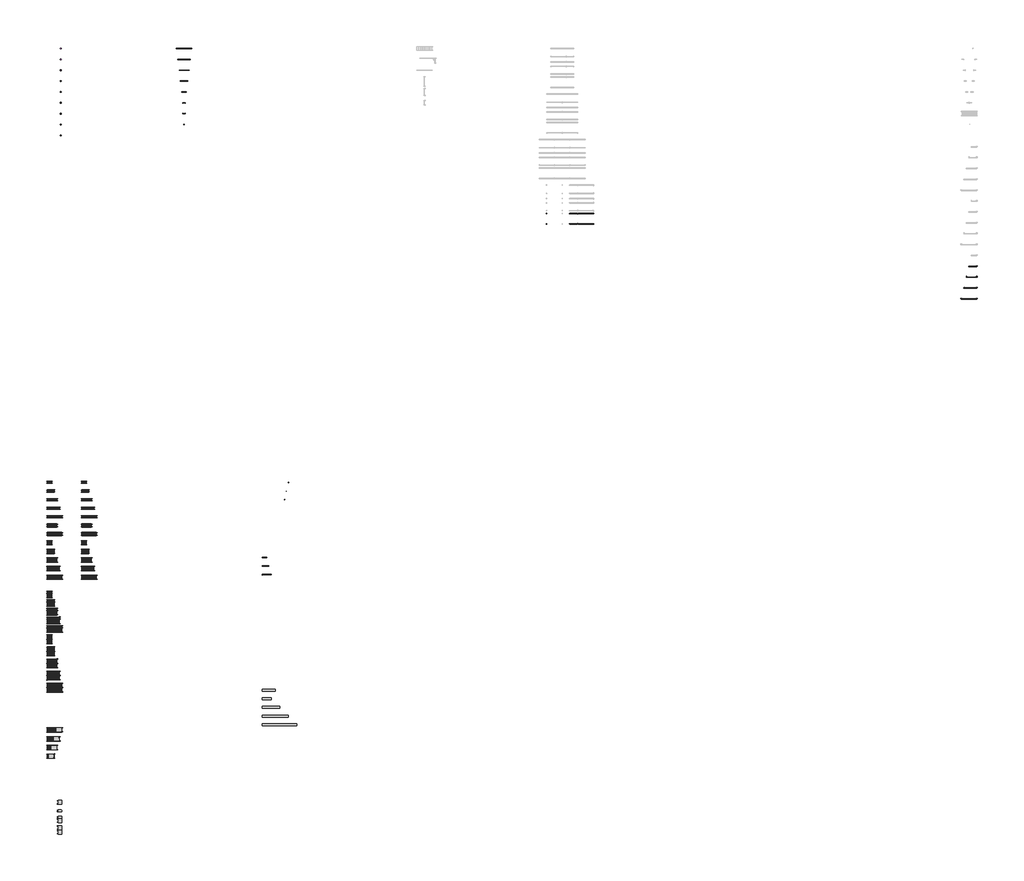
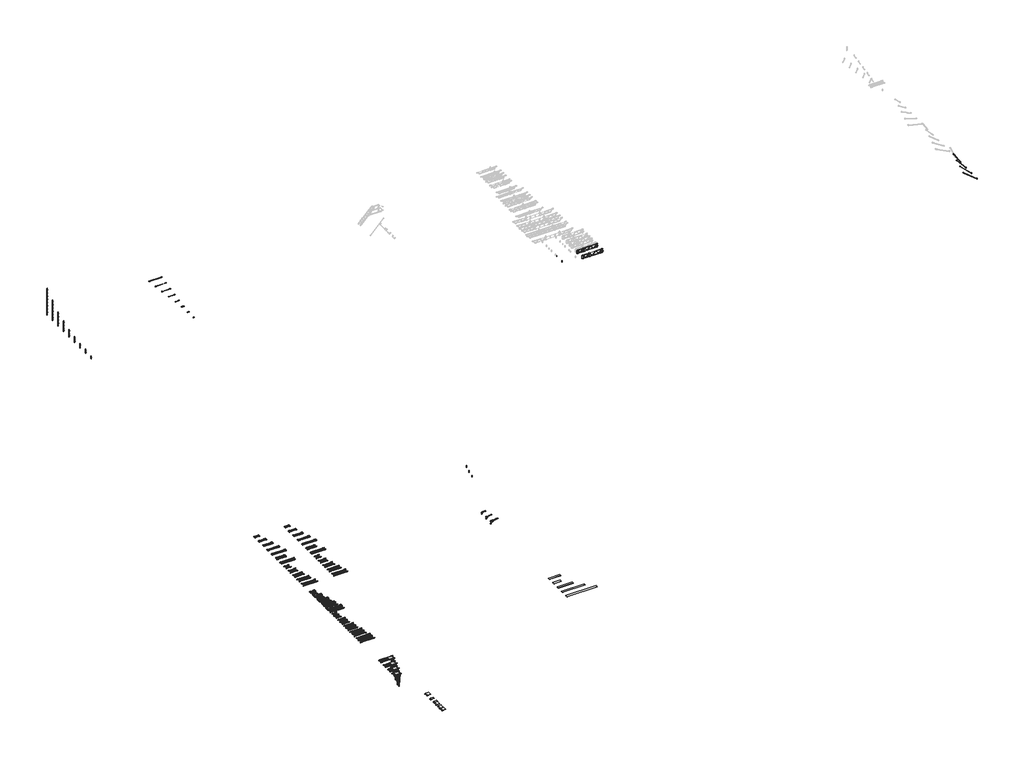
# One storey, part 1 of 2: 97 proxies.
"""IFC4 building model written with IfcOpenShell, lengths in millimetres."""

from ifc_helpers import new_model, si_unit, origin, place, context, project, spatial, transform, mapped, element, save
from components import generic_models_9ae7badf, generic_models_bc8bdfa8, generic_models_b39278bf, generic_models_16b3c78d, generic_models_86f9ce57, generic_models_1dade7e1, generic_models_76ee82b8, generic_models_0a93a7db, generic_models_1e0378dc, generic_models_099d6492, generic_models_34d79544, generic_models_03ab8a06, generic_models_fc53304d, generic_models_4928589d, generic_models_6867d717, generic_models_185ff827, generic_models_e073ca39, generic_models_5db8f6cd, generic_models_267648cc, generic_models_1a670a13, generic_models_91e35777, generic_models_8123577b, generic_models_a14d9769, generic_models_4baf35b3, generic_models_d6438b01, generic_models_5d8191d4, generic_models_ce839660, generic_models_d6b93112, generic_models_1c8c572c, generic_models_a2686e9c, generic_models_e65f739b, generic_models_9cb0f32e, generic_models_ee78bb28, generic_models_ff1ff812, generic_models_8fd451b1, generic_models_806800af, generic_models_df36e8bf, generic_models_287da4fc, generic_models_65f5dfb3, generic_models_88d3360a, generic_models_fa205c5b, generic_models_86c40f9e, generic_models_9ef94eaa, generic_models_952e4b3d, generic_models_f0d058aa, generic_models_0a2738e6, generic_models_8592025f, generic_models_cbe01f0f, generic_models_8c229552, generic_models_9fc35acb, generic_models_31d243a7, generic_models_94c8d769, generic_models_a3916c57, generic_models_d422c3df, generic_models_93407514, generic_models_2c6fe471, generic_models_3d49bad1, generic_models_e605bb73, generic_models_ee462c93

model = new_model("IFC4")

# Units and contexts
model_context = context("Model", 3, world=origin())
ifc_project = project(units=[si_unit("LENGTHUNIT", "METRE", prefix="MILLI")], contexts=[model_context])

# Site, building, storey
site = spatial("IfcSite", under=ifc_project)
building = spatial("IfcBuilding", under=site)
storey = spatial("IfcBuildingStorey", under=building, Name="レベル 1", Elevation=500.0)

# Proxies
placement = place(None, origin())
generic_models_shape = generic_models_9ae7badf(model_context)
element("IfcBuildingElementProxy", 1, Name="AK_アルバトロスＡＫ支柱L=3600_軽 : AK_アルバトロスＡＫ支柱L=3600", ObjectType="AK_アルバトロスＡＫ支柱L=3600_軽 : AK_アルバトロスＡＫ支柱L=3600", at=placement, inside=storey, context=model_context, shape_type="MappedRepresentation", body=[
    mapped(generic_models_shape, transform((6859.9075357, 25132.706542, 500.0), x_axis=(1.0, 0.0, 0.0), y_axis=(0.0, 1.0, 0.0), z_axis=(0.0, 0.0, 1.0))),
])
generic_models_2_shape = generic_models_bc8bdfa8(model_context)
element("IfcBuildingElementProxy", 2, Name="AK_アルバトロスＡＫ連結ピン_軽 : AK_アルバトロスＡＫ連結ピン", ObjectType="AK_アルバトロスＡＫ連結ピン_軽 : AK_アルバトロスＡＫ連結ピン", at=placement, inside=storey, context=model_context, shape_type="MappedRepresentation", body=[
    mapped(generic_models_2_shape, transform((6859.9075357, 25132.706542, 4075.0), x_axis=(1.0, 0.0, 0.0), y_axis=(0.0, 1.0, 0.0), z_axis=(0.0, 0.0, 1.0))),
])
element("IfcBuildingElementProxy", 3, Name="AK_アルバトロスＡＫ連結ピン_軽 : AK_アルバトロスＡＫ連結ピン", ObjectType="AK_アルバトロスＡＫ連結ピン_軽 : AK_アルバトロスＡＫ連結ピン", at=placement, inside=storey, context=model_context, shape_type="MappedRepresentation", body=[
    mapped(generic_models_2_shape, transform((6859.9075357, 23872.706542, 3175.0), x_axis=(1.0, 0.0, 0.0), y_axis=(0.0, 1.0, 0.0), z_axis=(0.0, 0.0, 1.0))),
])
generic_models_3_shape = generic_models_b39278bf(model_context)
element("IfcBuildingElementProxy", 4, Name="AK_アルバトロスＡＫ支柱L=2700_軽 : AK_アルバトロスＡＫ支柱L=2700", ObjectType="AK_アルバトロスＡＫ支柱L=2700_軽 : AK_アルバトロスＡＫ支柱L=2700", at=placement, inside=storey, context=model_context, shape_type="MappedRepresentation", body=[
    mapped(generic_models_3_shape, transform((6859.9075357, 23872.706542, 500.0), x_axis=(1.0, 0.0, 0.0), y_axis=(0.0, 1.0, 0.0), z_axis=(0.0, 0.0, 1.0))),
])
generic_models_4_shape = generic_models_16b3c78d(model_context)
element("IfcBuildingElementProxy", 5, Name="AK_アルバトロスＡＫ支柱L=1800_軽 : AK_アルバトロスＡＫ支柱L=1800", ObjectType="AK_アルバトロスＡＫ支柱L=1800_軽 : AK_アルバトロスＡＫ支柱L=1800", at=placement, inside=storey, context=model_context, shape_type="MappedRepresentation", body=[
    mapped(generic_models_4_shape, transform((6859.9075357, 22612.706542, 500.0), x_axis=(1.0, 0.0, 0.0), y_axis=(0.0, 1.0, 0.0), z_axis=(0.0, 0.0, 1.0))),
])
element("IfcBuildingElementProxy", 6, Name="AK_アルバトロスＡＫ連結ピン_軽 : AK_アルバトロスＡＫ連結ピン", ObjectType="AK_アルバトロスＡＫ連結ピン_軽 : AK_アルバトロスＡＫ連結ピン", at=placement, inside=storey, context=model_context, shape_type="MappedRepresentation", body=[
    mapped(generic_models_2_shape, transform((6859.9075357, 22612.706542, 2275.0), x_axis=(1.0, 0.0, 0.0), y_axis=(0.0, 1.0, 0.0), z_axis=(0.0, 0.0, 1.0))),
])
element("IfcBuildingElementProxy", 7, Name="AK_アルバトロスＡＫ連結ピン_軽 : AK_アルバトロスＡＫ連結ピン", ObjectType="AK_アルバトロスＡＫ連結ピン_軽 : AK_アルバトロスＡＫ連結ピン", at=placement, inside=storey, context=model_context, shape_type="MappedRepresentation", body=[
    mapped(generic_models_2_shape, transform((6859.9075357, 21352.706542, 1825.0), x_axis=(1.0, 0.0, 0.0), y_axis=(0.0, 1.0, 0.0), z_axis=(0.0, 0.0, 1.0))),
])
generic_models_5_shape = generic_models_86f9ce57(model_context)
element("IfcBuildingElementProxy", 8, Name="AK_アルバトロスＡＫ支柱L=1350_軽 : AK_アルバトロスＡＫ支柱L=1350", ObjectType="AK_アルバトロスＡＫ支柱L=1350_軽 : AK_アルバトロスＡＫ支柱L=1350", at=placement, inside=storey, context=model_context, shape_type="MappedRepresentation", body=[
    mapped(generic_models_5_shape, transform((6859.9075357, 21352.706542, 500.0), x_axis=(1.0, 0.0, 0.0), y_axis=(0.0, 1.0, 0.0), z_axis=(0.0, 0.0, 1.0))),
])
generic_models_6_shape = generic_models_1dade7e1(model_context)
element("IfcBuildingElementProxy", 9, Name="AK_アルバトロスＡＫ支柱L=900_軽 : AK_アルバトロスＡＫ支柱L=900", ObjectType="AK_アルバトロスＡＫ支柱L=900_軽 : AK_アルバトロスＡＫ支柱L=900", at=placement, inside=storey, context=model_context, shape_type="MappedRepresentation", body=[
    mapped(generic_models_6_shape, transform((6859.9075357, 20092.706542, 500.0), x_axis=(1.0, 0.0, 0.0), y_axis=(0.0, 1.0, 0.0), z_axis=(0.0, 0.0, 1.0))),
])
element("IfcBuildingElementProxy", 10, Name="AK_アルバトロスＡＫ連結ピン_軽 : AK_アルバトロスＡＫ連結ピン", ObjectType="AK_アルバトロスＡＫ連結ピン_軽 : AK_アルバトロスＡＫ連結ピン", at=placement, inside=storey, context=model_context, shape_type="MappedRepresentation", body=[
    mapped(generic_models_2_shape, transform((6859.9075357, 20092.706542, 1375.0), x_axis=(1.0, 0.0, 0.0), y_axis=(0.0, 1.0, 0.0), z_axis=(0.0, 0.0, 1.0))),
])
element("IfcBuildingElementProxy", 11, Name="AK_アルバトロスＡＫ連結ピン_軽 : AK_アルバトロスＡＫ連結ピン", ObjectType="AK_アルバトロスＡＫ連結ピン_軽 : AK_アルバトロスＡＫ連結ピン", at=placement, inside=storey, context=model_context, shape_type="MappedRepresentation", body=[
    mapped(generic_models_2_shape, transform((6859.9075357, 18832.706542, 1150.0), x_axis=(1.0, 0.0, 0.0), y_axis=(0.0, 1.0, 0.0), z_axis=(0.0, 0.0, 1.0))),
])
generic_models_7_shape = generic_models_76ee82b8(model_context)
element("IfcBuildingElementProxy", 12, Name="AK_アルバトロスＡＫ支柱L=675_軽 : AK_アルバトロスＡＫ支柱L=675", ObjectType="AK_アルバトロスＡＫ支柱L=675_軽 : AK_アルバトロスＡＫ支柱L=675", at=placement, inside=storey, context=model_context, shape_type="MappedRepresentation", body=[
    mapped(generic_models_7_shape, transform((6859.9075357, 18832.706542, 500.0), x_axis=(1.0, 0.0, 0.0), y_axis=(0.0, 1.0, 0.0), z_axis=(0.0, 0.0, 1.0))),
])
generic_models_8_shape = generic_models_0a93a7db(model_context)
element("IfcBuildingElementProxy", 13, Name="AK_アルバトロスＡＫ支柱L=450_軽 : AK_アルバトロスＡＫ支柱L=450", ObjectType="AK_アルバトロスＡＫ支柱L=450_軽 : AK_アルバトロスＡＫ支柱L=450", at=placement, inside=storey, context=model_context, shape_type="MappedRepresentation", body=[
    mapped(generic_models_8_shape, transform((6859.9075357, 17572.706542, 500.0), x_axis=(1.0, 0.0, 0.0), y_axis=(0.0, 1.0, 0.0), z_axis=(0.0, 0.0, 1.0))),
])
generic_models_9_shape = generic_models_1e0378dc(model_context)
element("IfcBuildingElementProxy", 14, Name="AK_アルバトロスＡＫ連結ピン_軽 : AK_アルバトロスＡＫ連結ピン", ObjectType="AK_アルバトロスＡＫ連結ピン_軽 : AK_アルバトロスＡＫ連結ピン", at=placement, inside=storey, context=model_context, shape_type="MappedRepresentation", body=[
    mapped(generic_models_9_shape, transform((6859.9075357, 17572.706542, 925.0), x_axis=(1.0, 0.0, 0.0), y_axis=(0.0, 1.0, 0.0), z_axis=(0.0, 0.0, 1.0))),
])
generic_models_10_shape = generic_models_099d6492(model_context)
element("IfcBuildingElementProxy", 15, Name="AK_アルバトロスＡＫ布材L=1800_軽 : AK_アルバトロスＡＫ布材L=1800_軽", ObjectType="AK_アルバトロスＡＫ布材L=1800_軽 : AK_アルバトロスＡＫ布材L=1800_軽", at=placement, inside=storey, context=model_context, shape_type="MappedRepresentation", body=[
    mapped(generic_models_10_shape, transform((20254.9075357, 25132.706542, 500.0), x_axis=(1.0, 0.0, 0.0), y_axis=(0.0, 1.0, 0.0), z_axis=(0.0, 0.0, 1.0))),
])
generic_models_11_shape = generic_models_34d79544(model_context)
element("IfcBuildingElementProxy", 16, Name="AK_アルバトロスＡＫ布材L=1500_軽 : AK_アルバトロスＡＫ布材L=1500_軽", ObjectType="AK_アルバトロスＡＫ布材L=1500_軽 : AK_アルバトロスＡＫ布材L=1500_軽", at=placement, inside=storey, context=model_context, shape_type="MappedRepresentation", body=[
    mapped(generic_models_11_shape, transform((20404.9075383, 23872.706542, 500.0), x_axis=(1.0, 0.0, 0.0), y_axis=(0.0, 1.0, 0.0), z_axis=(0.0, 0.0, 1.0))),
])
generic_models_12_shape = generic_models_03ab8a06(model_context)
element("IfcBuildingElementProxy", 17, Name="AK_アルバトロスＡＫ布材L=1200_軽 : AK_アルバトロスＡＫ布材L=1200_軽", ObjectType="AK_アルバトロスＡＫ布材L=1200_軽 : AK_アルバトロスＡＫ布材L=1200_軽", at=placement, inside=storey, context=model_context, shape_type="MappedRepresentation", body=[
    mapped(generic_models_12_shape, transform((20554.9075159, 22612.706542, 500.0), x_axis=(1.0, 0.0, 0.0), y_axis=(0.0, 1.0, 0.0), z_axis=(0.0, 0.0, 1.0))),
])
generic_models_13_shape = generic_models_fc53304d(model_context)
element("IfcBuildingElementProxy", 18, Name="AK_アルバトロスＡＫ布材L=900_軽 : AK_アルバトロスＡＫ布材L=900_軽", ObjectType="AK_アルバトロスＡＫ布材L=900_軽 : AK_アルバトロスＡＫ布材L=900_軽", at=placement, inside=storey, context=model_context, shape_type="MappedRepresentation", body=[
    mapped(generic_models_13_shape, transform((20704.9075357, 21352.706542, 500.0), x_axis=(1.0, 0.0, 0.0), y_axis=(0.0, 1.0, 0.0), z_axis=(0.0, 0.0, 1.0))),
])
generic_models_14_shape = generic_models_4928589d(model_context)
element("IfcBuildingElementProxy", 19, Name="AK_アルバトロスＡＫ布材L=600_軽 : AK_アルバトロスＡＫ布材L=600_軽", ObjectType="AK_アルバトロスＡＫ布材L=600_軽 : AK_アルバトロスＡＫ布材L=600_軽", at=placement, inside=storey, context=model_context, shape_type="MappedRepresentation", body=[
    mapped(generic_models_14_shape, transform((20854.9075159, 20092.706542, 500.0), x_axis=(1.0, 0.0, 0.0), y_axis=(0.0, 1.0, 0.0), z_axis=(0.0, 0.0, 1.0))),
])
generic_models_15_shape = generic_models_6867d717(model_context)
element("IfcBuildingElementProxy", 20, Name="AK_アルバトロスＡＫ布材L=360_軽 : AK_アルバトロスＡＫ布材L=360_軽", ObjectType="AK_アルバトロスＡＫ布材L=360_軽 : AK_アルバトロスＡＫ布材L=360_軽", at=placement, inside=storey, context=model_context, shape_type="MappedRepresentation", body=[
    mapped(generic_models_15_shape, transform((20974.9075357, 18832.706542, 500.0), x_axis=(1.0, 0.0, 0.0), y_axis=(0.0, 1.0, 0.0), z_axis=(0.0, 0.0, 1.0))),
])
generic_models_16_shape = generic_models_185ff827(model_context)
element("IfcBuildingElementProxy", 21, Name="AK_アルバトロスＡＫ布材L=300_軽 : AK_アルバトロスＡＫ布材L=300_軽", ObjectType="AK_アルバトロスＡＫ布材L=300_軽 : AK_アルバトロスＡＫ布材L=300_軽", at=placement, inside=storey, context=model_context, shape_type="MappedRepresentation", body=[
    mapped(generic_models_16_shape, transform((21004.9075107, 17572.706542, 500.0), x_axis=(1.0, 0.0, 0.0), y_axis=(0.0, 1.0, 0.0), z_axis=(0.0, 0.0, 1.0))),
])
generic_models_17_shape = generic_models_e073ca39(model_context)
element("IfcBuildingElementProxy", 22, Name="AK_アルバトロスＡＫつなぎ材_軽 : AK_アルバトロスＡＫつなぎ材_軽", ObjectType="AK_アルバトロスＡＫつなぎ材_軽 : AK_アルバトロスＡＫつなぎ材_軽", at=placement, inside=storey, context=model_context, shape_type="MappedRepresentation", body=[
    mapped(generic_models_17_shape, transform((21073.4075306, 16312.706542, 500.0), x_axis=(1.0, 0.0, 0.0), y_axis=(0.0, 1.0, 0.0), z_axis=(0.0, 0.0, 1.0))),
])
generic_models_18_shape = generic_models_5db8f6cd(model_context)
element("IfcBuildingElementProxy", 23, Name="AK_アルバトロスＡＫ根がらみ支柱L=225_軽 : AK_アルバトロスＡＫ根がらみ支柱L=225_軽", ObjectType="AK_アルバトロスＡＫ根がらみ支柱L=225_軽 : AK_アルバトロスＡＫ根がらみ支柱L=225_軽", at=placement, inside=storey, context=model_context, shape_type="MappedRepresentation", body=[
    mapped(generic_models_18_shape, transform((6859.9075357, 15052.706542, 500.0), x_axis=(1.0, 0.0, 0.0), y_axis=(0.0, 1.0, 0.0), z_axis=(0.0, 0.0, 1.0))),
])
generic_models_19_shape = generic_models_267648cc(model_context)
element("IfcBuildingElementProxy", 24, Name="AK_アルバトロスＡＫ根がらみ支柱L=450（大和式ピン）_軽 : AK_アルバトロスＡＫ根がらみ支柱L=450（大和式ピン）_軽", ObjectType="AK_アルバトロスＡＫ根がらみ支柱L=450（大和式ピン）_軽 : AK_アルバトロスＡＫ根がらみ支柱L=450（大和式ピン）_軽", at=placement, inside=storey, context=model_context, shape_type="MappedRepresentation", body=[
    mapped(generic_models_19_shape, transform((6859.9075357, 16312.706542, 500.0), x_axis=(1.0, 0.0, 0.0), y_axis=(0.0, 1.0, 0.0), z_axis=(0.0, 0.0, 1.0))),
])
generic_models_20_shape = generic_models_1a670a13(model_context)
element("IfcBuildingElementProxy", 25, Name="アルバトロスAK4スパン梁枠短ピン付_軽 : アルバトロスAK4スパン梁枠短ピン付_軽", ObjectType="アルバトロスAK4スパン梁枠短ピン付_軽 : アルバトロスAK4スパン梁枠短ピン付_軽", at=placement, inside=storey, context=model_context, shape_type="MappedRepresentation", body=[
    mapped(generic_models_20_shape, transform((61328.3356425, 4792.706542, 500.0), x_axis=(1.0, 0.0, 0.0), y_axis=(0.0, 1.0, 0.0), z_axis=(0.0, 0.0, 1.0))),
])
generic_models_21_shape = generic_models_91e35777(model_context)
element("IfcBuildingElementProxy", 26, Name="AK_アルバトロスAK伸縮斜材 : H1800×L1200", ObjectType="AK_アルバトロスAK伸縮斜材 : H1800×L1200", at=placement, inside=storey, context=model_context, shape_type="MappedRepresentation", body=[
    mapped(generic_models_21_shape, transform((113074.6155155, -1397.293458, 0.0), x_axis=(1.0, 0.0, 0.0), y_axis=(0.0, 1.0, 0.0), z_axis=(0.0, 0.0, 1.0))),
])
generic_models_22_shape = generic_models_8123577b(model_context)
element("IfcBuildingElementProxy", 27, Name="AK_アルバトロスAK伸縮斜材 : H1800×L1500", ObjectType="AK_アルバトロスAK伸縮斜材 : H1800×L1500", at=placement, inside=storey, context=model_context, shape_type="MappedRepresentation", body=[
    mapped(generic_models_22_shape, transform((113074.6155155, -2657.293458, 0.0), x_axis=(1.0, 0.0, 0.0), y_axis=(0.0, 1.0, 0.0), z_axis=(0.0, 0.0, 1.0))),
])
generic_models_23_shape = generic_models_a14d9769(model_context)
element("IfcBuildingElementProxy", 28, Name="AK_アルバトロスAK伸縮斜材 : H1800×L1800", ObjectType="AK_アルバトロスAK伸縮斜材 : H1800×L1800", at=placement, inside=storey, context=model_context, shape_type="MappedRepresentation", body=[
    mapped(generic_models_23_shape, transform((113074.6155155, -3917.293458, 0.0), x_axis=(1.0, 0.0, 0.0), y_axis=(0.0, 1.0, 0.0), z_axis=(0.0, 0.0, 1.0))),
])
generic_models_24_shape = generic_models_4baf35b3(model_context)
element("IfcBuildingElementProxy", 29, Name="AK_アルバトロスAK伸縮斜材 : H1800×L0900", ObjectType="AK_アルバトロスAK伸縮斜材 : H1800×L0900", at=placement, inside=storey, context=model_context, shape_type="MappedRepresentation", body=[
    mapped(generic_models_24_shape, transform((113074.6155155, -137.293458, 0.0), x_axis=(1.0, 0.0, 0.0), y_axis=(0.0, 1.0, 0.0), z_axis=(0.0, 0.0, 1.0))),
])
generic_models_25_shape = generic_models_d6438b01(model_context)
element("IfcBuildingElementProxy", 30, Name="梁枠部品ピン_軽 : 梁枠部品ピン_軽", ObjectType="梁枠部品ピン_軽 : 梁枠部品ピン_軽", at=placement, inside=storey, context=model_context, shape_type="MappedRepresentation", body=[
    mapped(generic_models_25_shape, transform((63205.3356425, 5992.706542, 500.0), x_axis=(1.0, 0.0, 0.0), y_axis=(0.0, 1.0, 0.0), z_axis=(0.0, 0.0, 1.0))),
])
generic_models_26_shape = generic_models_5d8191d4(model_context)
element("IfcBuildingElementProxy", 31, Name="アルバトロスAK4スパン梁枠短ピン付_軽 : アルバトロスAK4スパン梁枠短ピン付_軽", ObjectType="アルバトロスAK4スパン梁枠短ピン付_軽 : アルバトロスAK4スパン梁枠短ピン付_軽", at=placement, inside=storey, context=model_context, shape_type="MappedRepresentation", body=[
    mapped(generic_models_26_shape, transform((61328.3356425, 5992.706542, 500.0), x_axis=(1.0, 0.0, 0.0), y_axis=(0.0, 1.0, 0.0), z_axis=(0.0, 0.0, 1.0))),
])
generic_models_27_shape = generic_models_ce839660(model_context)
element("IfcBuildingElementProxy", 32, Name="梁枠部品ピン_軽 : 梁枠部品ピン_軽", ObjectType="梁枠部品ピン_軽 : 梁枠部品ピン_軽", at=placement, inside=storey, context=model_context, shape_type="MappedRepresentation", body=[
    mapped(generic_models_27_shape, transform((63205.3356425, 4792.706542, 500.0), x_axis=(1.0, 0.0, 0.0), y_axis=(0.0, 1.0, 0.0), z_axis=(0.0, 0.0, 1.0))),
])
generic_models_28_shape = generic_models_d6b93112(model_context)
element("IfcBuildingElementProxy", 33, Name="AKK布板HF-206_軽 : 鋼製布板 HF-206_軽", ObjectType="AKK布板HF-206_軽 : 鋼製布板 HF-206_軽", at=placement, inside=storey, context=model_context, shape_type="MappedRepresentation", body=[
    mapped(generic_models_28_shape, transform((5244.9191609, -25304.0203924, 500.0), x_axis=(1.0, 0.0, 0.0), y_axis=(0.0, 1.0, 0.0), z_axis=(0.0, 0.0, 1.0))),
])
generic_models_29_shape = generic_models_1c8c572c(model_context)
element("IfcBuildingElementProxy", 34, Name="AKK布板HF-209_軽 : 鋼製布板 HF-209_軽", ObjectType="AKK布板HF-209_軽 : 鋼製布板 HF-209_軽", at=placement, inside=storey, context=model_context, shape_type="MappedRepresentation", body=[
    mapped(generic_models_29_shape, transform((5242.9191609, -26304.0203924, 500.0), x_axis=(1.0, 0.0, 0.0), y_axis=(0.0, 1.0, 0.0), z_axis=(0.0, 0.0, 1.0))),
])
generic_models_30_shape = generic_models_a2686e9c(model_context)
element("IfcBuildingElementProxy", 35, Name="AKK布板HF-212_軽 : 鋼製布板 HF-212_軽", ObjectType="AKK布板HF-212_軽 : 鋼製布板 HF-212_軽", at=placement, inside=storey, context=model_context, shape_type="MappedRepresentation", body=[
    mapped(generic_models_30_shape, transform((5240.4191609, -27304.0203924, 500.0), x_axis=(1.0, 0.0, 0.0), y_axis=(0.0, 1.0, 0.0), z_axis=(0.0, 0.0, 1.0))),
])
generic_models_31_shape = generic_models_e65f739b(model_context)
element("IfcBuildingElementProxy", 36, Name="AKK布板HF-215_軽 : 鋼製布板 HF-215_軽", ObjectType="AKK布板HF-215_軽 : 鋼製布板 HF-215_軽", at=placement, inside=storey, context=model_context, shape_type="MappedRepresentation", body=[
    mapped(generic_models_31_shape, transform((5237.9191609, -28304.0203924, 500.0), x_axis=(1.0, 0.0, 0.0), y_axis=(0.0, 1.0, 0.0), z_axis=(0.0, 0.0, 1.0))),
])
generic_models_32_shape = generic_models_9cb0f32e(model_context)
element("IfcBuildingElementProxy", 37, Name="AKK布板HF-218_軽 : 鋼製布板 HF-218_軽", ObjectType="AKK布板HF-218_軽 : 鋼製布板 HF-218_軽", at=placement, inside=storey, context=model_context, shape_type="MappedRepresentation", body=[
    mapped(generic_models_32_shape, transform((5235.4191609, -29304.0203924, 500.0), x_axis=(1.0, 0.0, 0.0), y_axis=(0.0, 1.0, 0.0), z_axis=(0.0, 0.0, 1.0))),
])
generic_models_33_shape = generic_models_ee78bb28(model_context)
element("IfcBuildingElementProxy", 38, Name="AKK布板HF-506_軽 : 鋼製布板 HF-506_軽", ObjectType="AKK布板HF-506_軽 : 鋼製布板 HF-506_軽", at=placement, inside=storey, context=model_context, shape_type="MappedRepresentation", body=[
    mapped(generic_models_33_shape, transform((5244.9191609, -32434.0741836, 500.0), x_axis=(1.0, 0.0, 0.0), y_axis=(0.0, 1.0, 0.0), z_axis=(0.0, 0.0, 1.0))),
])
generic_models_34_shape = generic_models_ff1ff812(model_context)
element("IfcBuildingElementProxy", 39, Name="AKK布板HF-509_軽 : 鋼製布板 HF-509_軽", ObjectType="AKK布板HF-509_軽 : 鋼製布板 HF-509_軽", at=placement, inside=storey, context=model_context, shape_type="MappedRepresentation", body=[
    mapped(generic_models_34_shape, transform((5242.9191609, -33434.0741836, 500.0), x_axis=(1.0, 0.0, 0.0), y_axis=(0.0, 1.0, 0.0), z_axis=(0.0, 0.0, 1.0))),
])
generic_models_35_shape = generic_models_8fd451b1(model_context)
element("IfcBuildingElementProxy", 40, Name="AKK布板HF-512_軽 : 鋼製布板 HF-512_軽", ObjectType="AKK布板HF-512_軽 : 鋼製布板 HF-512_軽", at=placement, inside=storey, context=model_context, shape_type="MappedRepresentation", body=[
    mapped(generic_models_35_shape, transform((5240.4191609, -34434.0741836, 500.0), x_axis=(1.0, 0.0, 0.0), y_axis=(0.0, 1.0, 0.0), z_axis=(0.0, 0.0, 1.0))),
])
generic_models_36_shape = generic_models_806800af(model_context)
element("IfcBuildingElementProxy", 41, Name="AKK布板HF-515_軽 : 鋼製布板 HF-515_軽", ObjectType="AKK布板HF-515_軽 : 鋼製布板 HF-515_軽", at=placement, inside=storey, context=model_context, shape_type="MappedRepresentation", body=[
    mapped(generic_models_36_shape, transform((5237.9191609, -35434.0741836, 500.0), x_axis=(1.0, 0.0, 0.0), y_axis=(0.0, 1.0, 0.0), z_axis=(0.0, 0.0, 1.0))),
])
generic_models_37_shape = generic_models_df36e8bf(model_context)
element("IfcBuildingElementProxy", 42, Name="AKK布板HF-518_軽 : 鋼製布板 HF-518_軽", ObjectType="AKK布板HF-518_軽 : 鋼製布板 HF-518_軽", at=placement, inside=storey, context=model_context, shape_type="MappedRepresentation", body=[
    mapped(generic_models_37_shape, transform((5235.4191609, -36434.0741836, 500.0), x_axis=(1.0, 0.0, 0.0), y_axis=(0.0, 1.0, 0.0), z_axis=(0.0, 0.0, 1.0))),
])
generic_models_38_shape = generic_models_287da4fc(model_context)
element("IfcBuildingElementProxy", 43, Name="AK_補助布板HF-505_軽 : AK_補助布板HF-505_軽", ObjectType="AK_補助布板HF-505_軽 : AK_補助布板HF-505_軽", at=placement, inside=storey, context=model_context, shape_type="MappedRepresentation", body=[
    mapped(generic_models_38_shape, transform((6605.4075357, -62526.7557639, 500.0), x_axis=(1.0, 0.0, 0.0), y_axis=(0.0, 1.0, 0.0), z_axis=(0.0, 0.0, 1.0))),
])
element("IfcBuildingElementProxy", 44, Name="AK_補助布板HF-505_軽 : AK_補助布板HF-505_軽", ObjectType="AK_補助布板HF-505_軽 : AK_補助布板HF-505_軽", at=placement, inside=storey, context=model_context, shape_type="MappedRepresentation", body=[
    mapped(generic_models_38_shape, transform((6605.4075357, -64661.7557639, 500.0), x_axis=(1.0, 0.0, 0.0), y_axis=(0.0, 1.0, 0.0), z_axis=(0.0, 0.0, 1.0))),
])
generic_models_39_shape = generic_models_65f5dfb3(model_context)
element("IfcBuildingElementProxy", 45, Name="AK_補助布板HF-205_軽 : AK_補助布板HF-205_軽", ObjectType="AK_補助布板HF-205_軽 : AK_補助布板HF-205_軽", at=placement, inside=storey, context=model_context, shape_type="MappedRepresentation", body=[
    mapped(generic_models_39_shape, transform((6605.4075357, -63396.7557639, 500.0), x_axis=(1.0, 0.0, 0.0), y_axis=(0.0, 1.0, 0.0), z_axis=(0.0, 0.0, 1.0))),
])
element("IfcBuildingElementProxy", 46, Name="AK_補助布板HF-205_軽 : AK_補助布板HF-205_軽", ObjectType="AK_補助布板HF-205_軽 : AK_補助布板HF-205_軽", at=placement, inside=storey, context=model_context, shape_type="MappedRepresentation", body=[
    mapped(generic_models_39_shape, transform((6605.4075357, -64131.7557639, 500.0), x_axis=(1.0, 0.0, 0.0), y_axis=(0.0, 1.0, 0.0), z_axis=(0.0, 0.0, 1.0))),
])
generic_models_40_shape = generic_models_88d3360a(model_context)
element("IfcBuildingElementProxy", 47, Name="AKK布板HF-518_斜線なし_軽 : 鋼製布板 HF-518", ObjectType="AKK布板HF-518_斜線なし_軽 : 鋼製布板 HF-518", at=placement, inside=storey, context=model_context, shape_type="MappedRepresentation", body=[
    mapped(generic_models_40_shape, transform((9235.2275373, -36434.0741836, 500.0), x_axis=(1.0, 0.0, 0.0), y_axis=(0.0, 1.0, 0.0), z_axis=(0.0, 0.0, 1.0))),
])
element("IfcBuildingElementProxy", 48, Name="AKK布板HF-206_斜線なし_軽 : 鋼製布板 HF-206", ObjectType="AKK布板HF-206_斜線なし_軽 : 鋼製布板 HF-206", at=placement, inside=storey, context=model_context, shape_type="MappedRepresentation", body=[
    mapped(generic_models_28_shape, transform((9244.7275373, -25304.0203924, 500.0), x_axis=(1.0, 0.0, 0.0), y_axis=(0.0, 1.0, 0.0), z_axis=(0.0, 0.0, 1.0))),
])
element("IfcBuildingElementProxy", 49, Name="AKK布板HF-209_斜線なし_軽 : 鋼製布板 HF-209", ObjectType="AKK布板HF-209_斜線なし_軽 : 鋼製布板 HF-209", at=placement, inside=storey, context=model_context, shape_type="MappedRepresentation", body=[
    mapped(generic_models_29_shape, transform((9242.7275373, -26304.0203924, 500.0), x_axis=(1.0, 0.0, 0.0), y_axis=(0.0, 1.0, 0.0), z_axis=(0.0, 0.0, 1.0))),
])
generic_models_41_shape = generic_models_fa205c5b(model_context)
element("IfcBuildingElementProxy", 50, Name="AKK布板HF-212_斜線なし_軽 : 鋼製布板 HF-212", ObjectType="AKK布板HF-212_斜線なし_軽 : 鋼製布板 HF-212", at=placement, inside=storey, context=model_context, shape_type="MappedRepresentation", body=[
    mapped(generic_models_41_shape, transform((9240.2275373, -27304.0203924, 500.0), x_axis=(1.0, 0.0, 0.0), y_axis=(0.0, 1.0, 0.0), z_axis=(0.0, 0.0, 1.0))),
])
element("IfcBuildingElementProxy", 51, Name="AKK布板HF-215_斜線なし_軽 : 鋼製布板 HF-215", ObjectType="AKK布板HF-215_斜線なし_軽 : 鋼製布板 HF-215", at=placement, inside=storey, context=model_context, shape_type="MappedRepresentation", body=[
    mapped(generic_models_31_shape, transform((9237.7275373, -28304.0203924, 500.0), x_axis=(1.0, 0.0, 0.0), y_axis=(0.0, 1.0, 0.0), z_axis=(0.0, 0.0, 1.0))),
])
element("IfcBuildingElementProxy", 52, Name="AKK布板HF-218_斜線なし_軽 : 鋼製布板 HF-218", ObjectType="AKK布板HF-218_斜線なし_軽 : 鋼製布板 HF-218", at=placement, inside=storey, context=model_context, shape_type="MappedRepresentation", body=[
    mapped(generic_models_32_shape, transform((9235.2275373, -29304.0203924, 500.0), x_axis=(1.0, 0.0, 0.0), y_axis=(0.0, 1.0, 0.0), z_axis=(0.0, 0.0, 1.0))),
])
generic_models_42_shape = generic_models_86c40f9e(model_context)
element("IfcBuildingElementProxy", 53, Name="AKK布板HF-412_軽 : 鋼製布板 HF-412_軽", ObjectType="AKK布板HF-412_軽 : 鋼製布板 HF-412_軽", at=placement, inside=storey, context=model_context, shape_type="MappedRepresentation", body=[
    mapped(generic_models_42_shape, transform((5240.4191609, -30384.0203924, 500.0), x_axis=(1.0, 0.0, 0.0), y_axis=(0.0, 1.0, 0.0), z_axis=(0.0, 0.0, 1.0))),
])
generic_models_43_shape = generic_models_9ef94eaa(model_context)
element("IfcBuildingElementProxy", 54, Name="AKK布板HF-412_斜線なし_軽 : 鋼製布板 HF-412", ObjectType="AKK布板HF-412_斜線なし_軽 : 鋼製布板 HF-412", at=placement, inside=storey, context=model_context, shape_type="MappedRepresentation", body=[
    mapped(generic_models_43_shape, transform((9240.2275373, -30384.0741836, 500.0), x_axis=(1.0, 0.0, 0.0), y_axis=(0.0, 1.0, 0.0), z_axis=(0.0, 0.0, 1.0))),
])
generic_models_44_shape = generic_models_952e4b3d(model_context)
element("IfcBuildingElementProxy", 55, Name="AKK布板HF-418_斜線なし_軽 : 鋼製布板 HF-418", ObjectType="AKK布板HF-418_斜線なし_軽 : 鋼製布板 HF-418", at=placement, inside=storey, context=model_context, shape_type="MappedRepresentation", body=[
    mapped(generic_models_44_shape, transform((9235.2275373, -31384.0741836, 500.0), x_axis=(1.0, 0.0, 0.0), y_axis=(0.0, 1.0, 0.0), z_axis=(0.0, 0.0, 1.0))),
])
generic_models_45_shape = generic_models_f0d058aa(model_context)
element("IfcBuildingElementProxy", 56, Name="AKK布板HF-506_斜線なし_軽 : 鋼製布板 HF-506", ObjectType="AKK布板HF-506_斜線なし_軽 : 鋼製布板 HF-506", at=placement, inside=storey, context=model_context, shape_type="MappedRepresentation", body=[
    mapped(generic_models_45_shape, transform((9244.7275373, -32434.0741836, 500.0), x_axis=(1.0, 0.0, 0.0), y_axis=(0.0, 1.0, 0.0), z_axis=(0.0, 0.0, 1.0))),
])
element("IfcBuildingElementProxy", 57, Name="AKK布板HF-509_斜線なし_軽 : 鋼製布板 HF-509", ObjectType="AKK布板HF-509_斜線なし_軽 : 鋼製布板 HF-509", at=placement, inside=storey, context=model_context, shape_type="MappedRepresentation", body=[
    mapped(generic_models_34_shape, transform((9242.7275373, -33434.0741836, 500.0), x_axis=(1.0, 0.0, 0.0), y_axis=(0.0, 1.0, 0.0), z_axis=(0.0, 0.0, 1.0))),
])
element("IfcBuildingElementProxy", 58, Name="AKK布板HF-512_斜線なし_軽 : 鋼製布板 HF-512", ObjectType="AKK布板HF-512_斜線なし_軽 : 鋼製布板 HF-512", at=placement, inside=storey, context=model_context, shape_type="MappedRepresentation", body=[
    mapped(generic_models_35_shape, transform((9240.2275373, -34434.0741836, 500.0), x_axis=(1.0, 0.0, 0.0), y_axis=(0.0, 1.0, 0.0), z_axis=(0.0, 0.0, 1.0))),
])
element("IfcBuildingElementProxy", 59, Name="AKK布板HF-515_斜線なし_軽 : 鋼製布板 HF-515", ObjectType="AKK布板HF-515_斜線なし_軽 : 鋼製布板 HF-515", at=placement, inside=storey, context=model_context, shape_type="MappedRepresentation", body=[
    mapped(generic_models_36_shape, transform((9237.7275373, -35434.0741836, 500.0), x_axis=(1.0, 0.0, 0.0), y_axis=(0.0, 1.0, 0.0), z_axis=(0.0, 0.0, 1.0))),
])
element("IfcBuildingElementProxy", 60, Name="AKK布板HF-418_軽 : 鋼製布板 HF-418_軽", ObjectType="AKK布板HF-418_軽 : 鋼製布板 HF-418_軽", at=placement, inside=storey, context=model_context, shape_type="MappedRepresentation", body=[
    mapped(generic_models_44_shape, transform((5235.4191609, -31384.0203924, 500.0), x_axis=(1.0, 0.0, 0.0), y_axis=(0.0, 1.0, 0.0), z_axis=(0.0, 0.0, 1.0))),
])
generic_models_46_shape = generic_models_0a2738e6(model_context)
element("IfcBuildingElementProxy", 61, Name="AK_アルミハッチ式布板NHYA-509(タラップ式)_軽 : AK_アルミハッチ式布板NHYA-509(タラップ式)_軽", ObjectType="AK_アルミハッチ式布板NHYA-509(タラップ式)_軽 : AK_アルミハッチ式布板NHYA-509(タラップ式)_軽", at=placement, inside=storey, context=model_context, shape_type="MappedRepresentation", body=[
    mapped(generic_models_46_shape, transform((4334.9075357, -57184.0741836, 500.0), x_axis=(1.0, 0.0, 0.0), y_axis=(0.0, 1.0, 0.0), z_axis=(0.0, 0.0, 1.0))),
])
generic_models_47_shape = generic_models_8592025f(model_context)
element("IfcBuildingElementProxy", 62, Name="AK_アルミハッチ式布板HF-512HT(タラップ式)_軽 : AK_アルミハッチ式布板HF-512HT(タラップ式)_軽", ObjectType="AK_アルミハッチ式布板HF-512HT(タラップ式)_軽 : AK_アルミハッチ式布板HF-512HT(タラップ式)_軽", at=placement, inside=storey, context=model_context, shape_type="MappedRepresentation", body=[
    mapped(generic_models_47_shape, transform((4639.9075357, -56184.0741836, 500.0), x_axis=(1.0, 0.0, 0.0), y_axis=(0.0, 1.0, 0.0), z_axis=(0.0, 0.0, 1.0))),
])
generic_models_48_shape = generic_models_cbe01f0f(model_context)
element("IfcBuildingElementProxy", 63, Name="AK_アルミハッチ式布板HF-515HT(タラップ式)_軽 : AK_アルミハッチ式布板HF-515HT(タラップ式)_軽", ObjectType="AK_アルミハッチ式布板HF-515HT(タラップ式)_軽 : AK_アルミハッチ式布板HF-515HT(タラップ式)_軽", at=placement, inside=storey, context=model_context, shape_type="MappedRepresentation", body=[
    mapped(generic_models_48_shape, transform((4944.9075357, -55184.0741836, 500.0), x_axis=(1.0, 0.0, 0.0), y_axis=(0.0, 1.0, 0.0), z_axis=(0.0, 0.0, 1.0))),
])
generic_models_49_shape = generic_models_8c229552(model_context)
element("IfcBuildingElementProxy", 64, Name="AK_アルミハッチ式布板HF-518HT(タラップ式)_軽 : AK_アルミハッチ式布板HF-518HT(タラップ式)_軽", ObjectType="AK_アルミハッチ式布板HF-518HT(タラップ式)_軽 : AK_アルミハッチ式布板HF-518HT(タラップ式)_軽", at=placement, inside=storey, context=model_context, shape_type="MappedRepresentation", body=[
    mapped(generic_models_49_shape, transform((5235.4075357, -54134.0741836, 500.0), x_axis=(1.0, 0.0, 0.0), y_axis=(0.0, 1.0, 0.0), z_axis=(0.0, 0.0, 1.0))),
])
generic_models_50_shape = generic_models_9fc35acb(model_context)
element("IfcBuildingElementProxy", 65, Name="AK_アルミ足場板 AL-4_軽 : AK_アルミ足場板 AL-4_軽", ObjectType="AK_アルミ足場板 AL-4_軽 : AK_アルミ足場板 AL-4_軽", at=placement, inside=storey, context=model_context, shape_type="MappedRepresentation", body=[
    mapped(generic_models_50_shape, transform((30249.5475389, -53398.0741836, 500.0), x_axis=(1.0, 0.0, 0.0), y_axis=(0.0, 1.0, 0.0), z_axis=(0.0, 0.0, 1.0))),
])
generic_models_51_shape = generic_models_31d243a7(model_context)
element("IfcBuildingElementProxy", 66, Name="AK_アルミ足場板 AL-1.5_軽 : AK_アルミ足場板 AL-1.5_軽", ObjectType="AK_アルミ足場板 AL-1.5_軽 : AK_アルミ足場板 AL-1.5_軽", at=placement, inside=storey, context=model_context, shape_type="MappedRepresentation", body=[
    mapped(generic_models_51_shape, transform((30249.5475389, -49398.0741836, 500.0), x_axis=(1.0, 0.0, 0.0), y_axis=(0.0, 1.0, 0.0), z_axis=(0.0, 0.0, 1.0))),
])
generic_models_52_shape = generic_models_94c8d769(model_context)
element("IfcBuildingElementProxy", 67, Name="AK_アルミ足場板 AL-1_軽 : AK_アルミ足場板 AL-1_軽", ObjectType="AK_アルミ足場板 AL-1_軽 : AK_アルミ足場板 AL-1_軽", at=placement, inside=storey, context=model_context, shape_type="MappedRepresentation", body=[
    mapped(generic_models_52_shape, transform((30249.5475389, -50398.0741836, 500.0), x_axis=(1.0, 0.0, 0.0), y_axis=(0.0, 1.0, 0.0), z_axis=(0.0, 0.0, 1.0))),
])
generic_models_53_shape = generic_models_a3916c57(model_context)
element("IfcBuildingElementProxy", 68, Name="AK_アルミ足場板 AL-2_軽 : AK_アルミ足場板 AL-2_軽", ObjectType="AK_アルミ足場板 AL-2_軽 : AK_アルミ足場板 AL-2_軽", at=placement, inside=storey, context=model_context, shape_type="MappedRepresentation", body=[
    mapped(generic_models_53_shape, transform((30249.5475389, -51398.0741836, 500.0), x_axis=(1.0, 0.0, 0.0), y_axis=(0.0, 1.0, 0.0), z_axis=(0.0, 0.0, 1.0))),
])
generic_models_54_shape = generic_models_d422c3df(model_context)
element("IfcBuildingElementProxy", 69, Name="AK_アルミ足場板 AL-3_軽 : AK_アルミ足場板 AL-3_軽", ObjectType="AK_アルミ足場板 AL-3_軽 : AK_アルミ足場板 AL-3_軽", at=placement, inside=storey, context=model_context, shape_type="MappedRepresentation", body=[
    mapped(generic_models_54_shape, transform((30249.5475389, -52398.0741836, 500.0), x_axis=(1.0, 0.0, 0.0), y_axis=(0.0, 1.0, 0.0), z_axis=(0.0, 0.0, 1.0))),
])
element("IfcBuildingElementProxy", 70, Name="AKK布板HF-206_軽 : 鋼製布板 HF-206_軽", ObjectType="AKK布板HF-206_軽 : 鋼製布板 HF-206_軽", at=placement, inside=storey, context=model_context, shape_type="MappedRepresentation", body=[
    mapped(generic_models_28_shape, transform((5244.9191609, -38039.0741836, 500.0), x_axis=(1.0, 0.0, 0.0), y_axis=(0.0, 1.0, 0.0), z_axis=(0.0, 0.0, 1.0))),
])
element("IfcBuildingElementProxy", 71, Name="AKK布板HF-506_軽 : 鋼製布板 HF-506_軽", ObjectType="AKK布板HF-506_軽 : 鋼製布板 HF-506_軽", at=placement, inside=storey, context=model_context, shape_type="MappedRepresentation", body=[
    mapped(generic_models_33_shape, transform((5244.9191609, -38569.0741836, 500.0), x_axis=(1.0, 0.0, 0.0), y_axis=(0.0, 1.0, 0.0), z_axis=(0.0, 0.0, 1.0))),
])
element("IfcBuildingElementProxy", 72, Name="AKK布板HF-506_軽 : 鋼製布板 HF-506_軽", ObjectType="AKK布板HF-506_軽 : 鋼製布板 HF-506_軽", at=placement, inside=storey, context=model_context, shape_type="MappedRepresentation", body=[
    mapped(generic_models_33_shape, transform((5244.9191609, -43369.0741836, 500.0), x_axis=(1.0, 0.0, 0.0), y_axis=(0.0, 1.0, 0.0), z_axis=(0.0, 0.0, 1.0))),
])
element("IfcBuildingElementProxy", 73, Name="AKK布板HF-506_軽 : 鋼製布板 HF-506_軽", ObjectType="AKK布板HF-506_軽 : 鋼製布板 HF-506_軽", at=placement, inside=storey, context=model_context, shape_type="MappedRepresentation", body=[
    mapped(generic_models_33_shape, transform((5244.9191609, -43899.0741836, 500.0), x_axis=(1.0, 0.0, 0.0), y_axis=(0.0, 1.0, 0.0), z_axis=(0.0, 0.0, 1.0))),
])
element("IfcBuildingElementProxy", 74, Name="AKK布板HF-209_軽 : 鋼製布板 HF-209_軽", ObjectType="AKK布板HF-209_軽 : 鋼製布板 HF-209_軽", at=placement, inside=storey, context=model_context, shape_type="MappedRepresentation", body=[
    mapped(generic_models_29_shape, transform((5242.9191609, -39039.0741836, 500.0), x_axis=(1.0, 0.0, 0.0), y_axis=(0.0, 1.0, 0.0), z_axis=(0.0, 0.0, 1.0))),
])
element("IfcBuildingElementProxy", 75, Name="AKK布板HF-509_軽 : 鋼製布板 HF-509_軽", ObjectType="AKK布板HF-509_軽 : 鋼製布板 HF-509_軽", at=placement, inside=storey, context=model_context, shape_type="MappedRepresentation", body=[
    mapped(generic_models_34_shape, transform((5242.9191609, -39569.0741836, 500.0), x_axis=(1.0, 0.0, 0.0), y_axis=(0.0, 1.0, 0.0), z_axis=(0.0, 0.0, 1.0))),
])
element("IfcBuildingElementProxy", 76, Name="AKK布板HF-509_軽 : 鋼製布板 HF-509_軽", ObjectType="AKK布板HF-509_軽 : 鋼製布板 HF-509_軽", at=placement, inside=storey, context=model_context, shape_type="MappedRepresentation", body=[
    mapped(generic_models_34_shape, transform((5242.9191609, -44769.0741836, 500.0), x_axis=(1.0, 0.0, 0.0), y_axis=(0.0, 1.0, 0.0), z_axis=(0.0, 0.0, 1.0))),
])
element("IfcBuildingElementProxy", 77, Name="AKK布板HF-509_軽 : 鋼製布板 HF-509_軽", ObjectType="AKK布板HF-509_軽 : 鋼製布板 HF-509_軽", at=placement, inside=storey, context=model_context, shape_type="MappedRepresentation", body=[
    mapped(generic_models_34_shape, transform((5242.9191609, -45299.0741836, 500.0), x_axis=(1.0, 0.0, 0.0), y_axis=(0.0, 1.0, 0.0), z_axis=(0.0, 0.0, 1.0))),
])
element("IfcBuildingElementProxy", 78, Name="AKK布板HF-518_軽 : 鋼製布板 HF-518_軽", ObjectType="AKK布板HF-518_軽 : 鋼製布板 HF-518_軽", at=placement, inside=storey, context=model_context, shape_type="MappedRepresentation", body=[
    mapped(generic_models_37_shape, transform((5235.4191609, -42569.0741836, 500.0), x_axis=(1.0, 0.0, 0.0), y_axis=(0.0, 1.0, 0.0), z_axis=(0.0, 0.0, 1.0))),
])
element("IfcBuildingElementProxy", 79, Name="AKK布板HF-518_軽 : 鋼製布板 HF-518_軽", ObjectType="AKK布板HF-518_軽 : 鋼製布板 HF-518_軽", at=placement, inside=storey, context=model_context, shape_type="MappedRepresentation", body=[
    mapped(generic_models_37_shape, transform((5235.4191609, -48969.0741836, 500.0), x_axis=(1.0, 0.0, 0.0), y_axis=(0.0, 1.0, 0.0), z_axis=(0.0, 0.0, 1.0))),
])
element("IfcBuildingElementProxy", 80, Name="AKK布板HF-518_軽 : 鋼製布板 HF-518_軽", ObjectType="AKK布板HF-518_軽 : 鋼製布板 HF-518_軽", at=placement, inside=storey, context=model_context, shape_type="MappedRepresentation", body=[
    mapped(generic_models_37_shape, transform((5235.4191609, -49499.0741836, 500.0), x_axis=(1.0, 0.0, 0.0), y_axis=(0.0, 1.0, 0.0), z_axis=(0.0, 0.0, 1.0))),
])
element("IfcBuildingElementProxy", 81, Name="AKK布板HF-212_軽 : 鋼製布板 HF-212_軽", ObjectType="AKK布板HF-212_軽 : 鋼製布板 HF-212_軽", at=placement, inside=storey, context=model_context, shape_type="MappedRepresentation", body=[
    mapped(generic_models_30_shape, transform((5240.4191609, -40039.0741836, 500.0), x_axis=(1.0, 0.0, 0.0), y_axis=(0.0, 1.0, 0.0), z_axis=(0.0, 0.0, 1.0))),
])
element("IfcBuildingElementProxy", 82, Name="AKK布板HF-512_軽 : 鋼製布板 HF-512_軽", ObjectType="AKK布板HF-512_軽 : 鋼製布板 HF-512_軽", at=placement, inside=storey, context=model_context, shape_type="MappedRepresentation", body=[
    mapped(generic_models_35_shape, transform((5240.4191609, -40569.0741836, 500.0), x_axis=(1.0, 0.0, 0.0), y_axis=(0.0, 1.0, 0.0), z_axis=(0.0, 0.0, 1.0))),
])
element("IfcBuildingElementProxy", 83, Name="AKK布板HF-512_軽 : 鋼製布板 HF-512_軽", ObjectType="AKK布板HF-512_軽 : 鋼製布板 HF-512_軽", at=placement, inside=storey, context=model_context, shape_type="MappedRepresentation", body=[
    mapped(generic_models_35_shape, transform((5240.4191609, -46169.0741836, 500.0), x_axis=(1.0, 0.0, 0.0), y_axis=(0.0, 1.0, 0.0), z_axis=(0.0, 0.0, 1.0))),
])
element("IfcBuildingElementProxy", 84, Name="AKK布板HF-512_軽 : 鋼製布板 HF-512_軽", ObjectType="AKK布板HF-512_軽 : 鋼製布板 HF-512_軽", at=placement, inside=storey, context=model_context, shape_type="MappedRepresentation", body=[
    mapped(generic_models_35_shape, transform((5240.4191609, -46699.0741836, 500.0), x_axis=(1.0, 0.0, 0.0), y_axis=(0.0, 1.0, 0.0), z_axis=(0.0, 0.0, 1.0))),
])
element("IfcBuildingElementProxy", 85, Name="AKK布板HF-215_軽 : 鋼製布板 HF-215_軽", ObjectType="AKK布板HF-215_軽 : 鋼製布板 HF-215_軽", at=placement, inside=storey, context=model_context, shape_type="MappedRepresentation", body=[
    mapped(generic_models_31_shape, transform((5237.9191609, -41039.0741836, 500.0), x_axis=(1.0, 0.0, 0.0), y_axis=(0.0, 1.0, 0.0), z_axis=(0.0, 0.0, 1.0))),
])
element("IfcBuildingElementProxy", 86, Name="AKK布板HF-515_軽 : 鋼製布板 HF-515_軽", ObjectType="AKK布板HF-515_軽 : 鋼製布板 HF-515_軽", at=placement, inside=storey, context=model_context, shape_type="MappedRepresentation", body=[
    mapped(generic_models_36_shape, transform((5237.9191609, -41569.0741836, 500.0), x_axis=(1.0, 0.0, 0.0), y_axis=(0.0, 1.0, 0.0), z_axis=(0.0, 0.0, 1.0))),
])
element("IfcBuildingElementProxy", 87, Name="AKK布板HF-515_軽 : 鋼製布板 HF-515_軽", ObjectType="AKK布板HF-515_軽 : 鋼製布板 HF-515_軽", at=placement, inside=storey, context=model_context, shape_type="MappedRepresentation", body=[
    mapped(generic_models_36_shape, transform((5237.9191609, -47569.0741836, 500.0), x_axis=(1.0, 0.0, 0.0), y_axis=(0.0, 1.0, 0.0), z_axis=(0.0, 0.0, 1.0))),
])
element("IfcBuildingElementProxy", 88, Name="AKK布板HF-515_軽 : 鋼製布板 HF-515_軽", ObjectType="AKK布板HF-515_軽 : 鋼製布板 HF-515_軽", at=placement, inside=storey, context=model_context, shape_type="MappedRepresentation", body=[
    mapped(generic_models_36_shape, transform((5237.9191609, -48099.0741836, 500.0), x_axis=(1.0, 0.0, 0.0), y_axis=(0.0, 1.0, 0.0), z_axis=(0.0, 0.0, 1.0))),
])
element("IfcBuildingElementProxy", 89, Name="AKK布板HF-218_軽 : 鋼製布板 HF-218_軽", ObjectType="AKK布板HF-218_軽 : 鋼製布板 HF-218_軽", at=placement, inside=storey, context=model_context, shape_type="MappedRepresentation", body=[
    mapped(generic_models_32_shape, transform((5235.4191609, -42039.0741836, 500.0), x_axis=(1.0, 0.0, 0.0), y_axis=(0.0, 1.0, 0.0), z_axis=(0.0, 0.0, 1.0))),
])
generic_models_55_shape = generic_models_93407514(model_context)
element("IfcBuildingElementProxy", 90, Name="AK_補助布板HF-505_軽 : AK_補助布板HF-505_軽", ObjectType="AK_補助布板HF-505_軽 : AK_補助布板HF-505_軽", at=placement, inside=storey, context=model_context, shape_type="MappedRepresentation", body=[
    mapped(generic_models_55_shape, transform((6605.4075357, -65501.7557639, 500.0), x_axis=(1.0, 0.0, 0.0), y_axis=(0.0, 1.0, 0.0), z_axis=(0.0, 0.0, 1.0))),
])
element("IfcBuildingElementProxy", 91, Name="AK_補助布板HF-505_軽 : AK_補助布板HF-505_軽", ObjectType="AK_補助布板HF-505_軽 : AK_補助布板HF-505_軽", at=placement, inside=storey, context=model_context, shape_type="MappedRepresentation", body=[
    mapped(generic_models_55_shape, transform((6605.4075357, -64971.7557639, 500.0), x_axis=(1.0, 0.0, 0.0), y_axis=(0.0, 1.0, 0.0), z_axis=(0.0, 0.0, 1.0))),
])
generic_models_56_shape = generic_models_2c6fe471(model_context)
element("IfcBuildingElementProxy", 92, Name="AK_伸縮ブラケット500_軽 : AK_伸縮ブラケット500_軽", ObjectType="AK_伸縮ブラケット500_軽 : AK_伸縮ブラケット500_軽", at=placement, inside=storey, context=model_context, shape_type="MappedRepresentation", body=[
    mapped(generic_models_56_shape, transform((30249.5475389, -33878.0741836, 500.0), x_axis=(-1.0, 0.0, 0.0), y_axis=(0.0, -1.0, 0.0), z_axis=(0.0, 0.0, 1.0))),
])
generic_models_57_shape = generic_models_3d49bad1(model_context)
element("IfcBuildingElementProxy", 93, Name="AK_伸縮ブラケット750_軽 : AK_伸縮ブラケット750_軽", ObjectType="AK_伸縮ブラケット750_軽 : AK_伸縮ブラケット750_軽", at=placement, inside=storey, context=model_context, shape_type="MappedRepresentation", body=[
    mapped(generic_models_57_shape, transform((30249.5475389, -34878.0741836, 500.0), x_axis=(-1.0, 0.0, 0.0), y_axis=(0.0, -1.0, 0.0), z_axis=(0.0, 0.0, 1.0))),
])
generic_models_58_shape = generic_models_e605bb73(model_context)
element("IfcBuildingElementProxy", 94, Name="AK_伸縮ブラケット1000_軽 : AK_伸縮ブラケット1000_軽", ObjectType="AK_伸縮ブラケット1000_軽 : AK_伸縮ブラケット1000_軽", at=placement, inside=storey, context=model_context, shape_type="MappedRepresentation", body=[
    mapped(generic_models_58_shape, transform((30249.5475389, -35878.0741836, 500.0), x_axis=(-1.0, 0.0, 0.0), y_axis=(0.0, -1.0, 0.0), z_axis=(0.0, 0.0, 1.0))),
])
generic_models_59_shape = generic_models_ee462c93(model_context)
element("IfcBuildingElementProxy", 95, Name="AK_兼用伸縮ブラケット用先端ピン : AK_兼用伸縮ブラケット用先端ピン", ObjectType="AK_兼用伸縮ブラケット用先端ピン : AK_兼用伸縮ブラケット用先端ピン", at=placement, inside=storey, context=model_context, shape_type="MappedRepresentation", body=[
    mapped(generic_models_59_shape, transform((33280.6871962, -25187.8995007, 500.0), x_axis=(1.0, 0.0, 0.0), y_axis=(0.0, 1.0, 0.0), z_axis=(0.0, 0.0, 1.0))),
])
element("IfcBuildingElementProxy", 96, Name="AK_兼用伸縮ブラケット用先端ピン : AK_兼用伸縮ブラケット用先端ピン", ObjectType="AK_兼用伸縮ブラケット用先端ピン : AK_兼用伸縮ブラケット用先端ピン", at=placement, inside=storey, context=model_context, shape_type="MappedRepresentation", body=[
    mapped(generic_models_59_shape, transform((33004.3175406, -26208.1685731, 500.0), x_axis=(1.0, 0.0, 0.0), y_axis=(0.0, 1.0, 0.0), z_axis=(0.0, 0.0, 1.0))),
])
element("IfcBuildingElementProxy", 97, Name="AK_兼用伸縮ブラケット用先端ピン : AK_兼用伸縮ブラケット用先端ピン", ObjectType="AK_兼用伸縮ブラケット用先端ピン : AK_兼用伸縮ブラケット用先端ピン", at=placement, inside=storey, context=model_context, shape_type="MappedRepresentation", body=[
    mapped(generic_models_59_shape, transform((32820.3175406, -27188.1638662, 500.0), x_axis=(1.0, 0.0, 0.0), y_axis=(0.0, 1.0, 0.0), z_axis=(0.0, 0.0, 1.0))),
])

save(model, "model.ifc")
